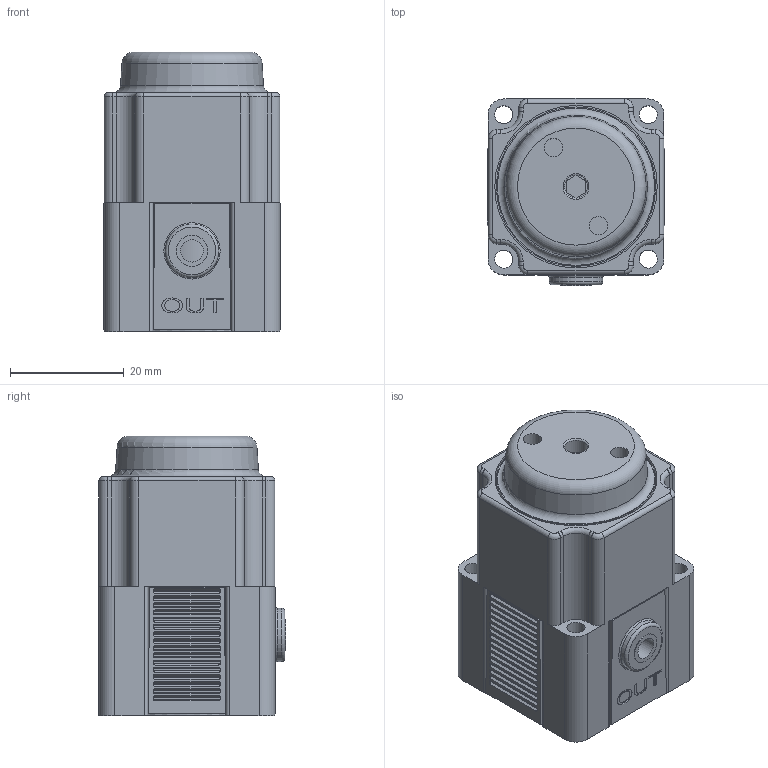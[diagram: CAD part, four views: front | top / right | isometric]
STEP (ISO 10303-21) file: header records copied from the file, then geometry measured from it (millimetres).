
FILE_DESCRIPTION(/* description */ (''),/* implementation_level */ '2;1');
FILE_NAME(/* name */ 'K:\Normteile INVENTOR\Air-Logic\Regulators\PR7000\PR 7___ 0 10-32 UNF Threads Out.igs.ipt.stp',/* time_stamp */ '2020-05-27T10:53:47+02:00',/* author */ ('Paul'),/* organization */ (''),/* preprocessor_version */ 'ST-DEVELOPER v18',/* originating_system */ 'Autodesk Inventor 2020',/* authorisation */ '');
FILE_SCHEMA (('AUTOMOTIVE_DESIGN { 1 0 10303 214 3 1 1 }'));
Length unit declared in the file: inch
Products named in the file (1): PR 7___ 0 10-32 UNF Threads Out.igs
Bounding box: 31.19 x 32.97 x 49.15 mm (x, y, z)
Volume: 39264.4 mm3; surface area: 12224.6 mm2
Topology: 1 solids, 1 shells, 602 faces, 1553 edges, 1013 vertices
Faces by surface type: plane 303, cylinder 248, bspline 28, torus 21, cone 2
Full cylindrical faces by diameter (mm): 3.175 x4, 3.226 x2, 3.962 x1, 4.013 x1, 5.486 x1, 6.248 x1, 9.169 x1, 9.398 x1, 9.652 x1, 12.903 x1, 26.264 x1, 27.991 x1, 28.047 x1, 28.575 x1
Entity records: 20624 total; most frequent: CARTESIAN_POINT 4843, DIRECTION 3323, ORIENTED_EDGE 3106, EDGE_CURVE 1553, AXIS2_PLACEMENT_3D 1311, VERTEX_POINT 1013, LINE 701, VECTOR 701
